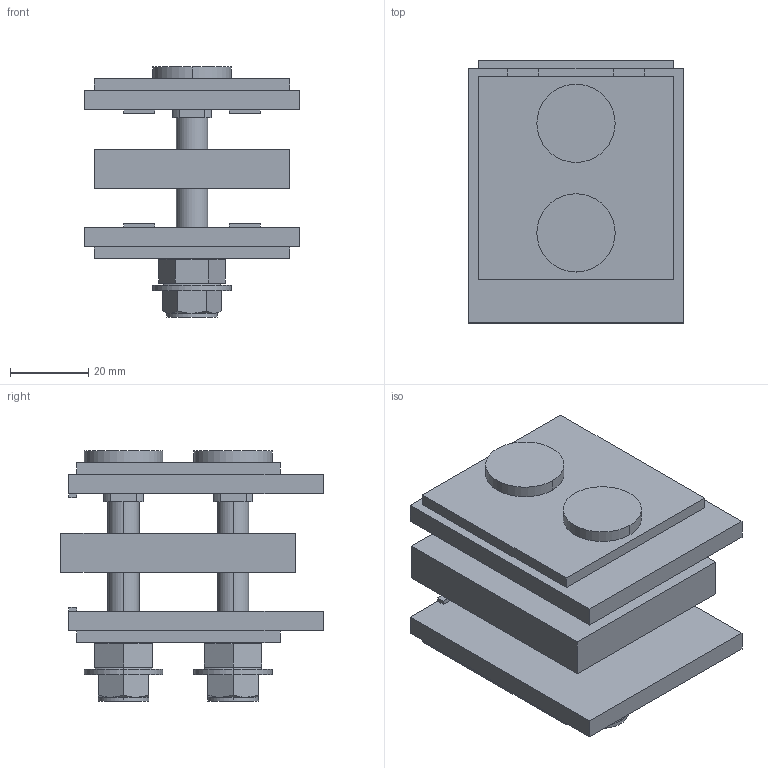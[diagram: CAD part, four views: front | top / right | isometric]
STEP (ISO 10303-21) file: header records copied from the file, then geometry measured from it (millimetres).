
FILE_DESCRIPTION((''),'2;1');
FILE_NAME('SB108896_3D_COLOUR','2013-08-12T',('SESA214371'),('Schneider-Electric'),'PRO/ENGINEER BY PARAMETRIC TECHNOLOGY CORPORATION, 2011410','PRO/ENGINEER BY PARAMETRIC TECHNOLOGY CORPORATION, 2011410','');
FILE_SCHEMA(('CONFIG_CONTROL_DESIGN'));
Length unit declared in the file: millimetre
Products named in the file (1): SB108896_3D_COLOUR
Bounding box: 55 x 67 x 63.95 mm (x, y, z)
Volume: 88083.4 mm3; surface area: 33583.4 mm2
Topology: 2 solids, 2 shells, 212 faces, 564 edges, 364 vertices
Faces by surface type: plane 140, cylinder 40, torus 16, cone 16
Entity records: 6794 total; most frequent: CARTESIAN_POINT 1448, ORIENTED_EDGE 1128, DIRECTION 1060, EDGE_CURVE 564, VERTEX_POINT 364, VECTOR 360, LINE 360, AXIS2_PLACEMENT_3D 350
